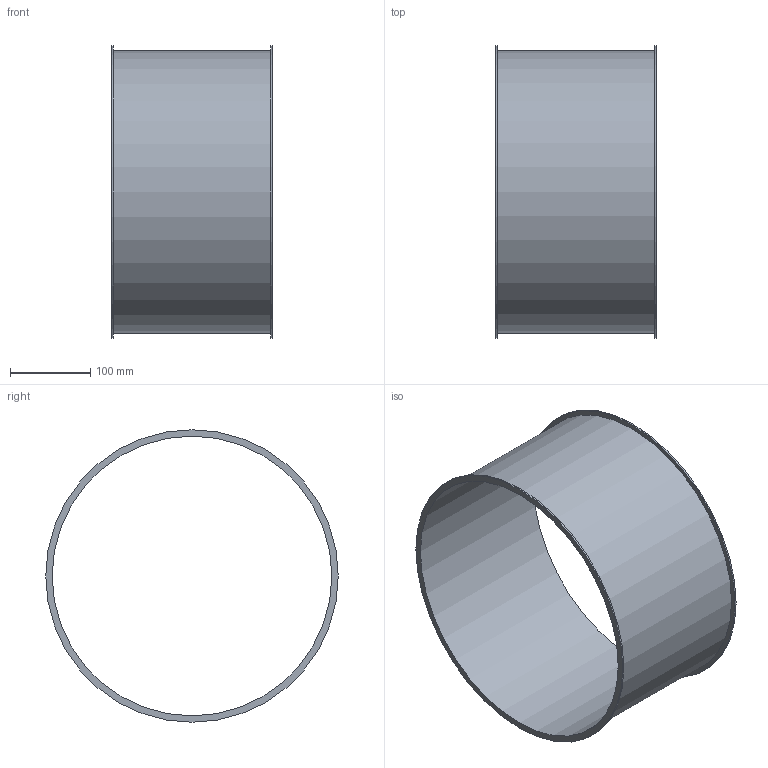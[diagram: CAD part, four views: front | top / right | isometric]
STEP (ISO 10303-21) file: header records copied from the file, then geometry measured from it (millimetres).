
FILE_DESCRIPTION((''),'2;1');
FILE_NAME('U:\Wolfgang\Marcel-3D\fertig\Kapitel 1\3521004.stp','2010-05-31T11:41:23',('TK2'),(''),'Autodesk Inventor 2010','Autodesk Inventor 2010','');
FILE_SCHEMA(('AUTOMOTIVE_DESIGN { 1 0 10303 214 1 1 1 1 }'));
Length unit declared in the file: millimetre
Products named in the file (1): 3521004
Bounding box: 200 x 365 x 365 mm (x, y, z)
Volume: 468147.6 mm3; surface area: 472709.2 mm2
Topology: 1 solids, 1 shells, 8 faces, 12 edges, 8 vertices
Faces by surface type: cylinder 4, plane 4
Full cylindrical faces by diameter (mm): 349 x1, 353 x1, 365 x2
Entity records: 194 total; most frequent: DIRECTION 34, CARTESIAN_POINT 25, AXIS2_PLACEMENT_3D 17, ORIENTED_EDGE 16, EDGE_LOOP 16, VERTEX_POINT 8, CIRCLE 8, EDGE_CURVE 8
